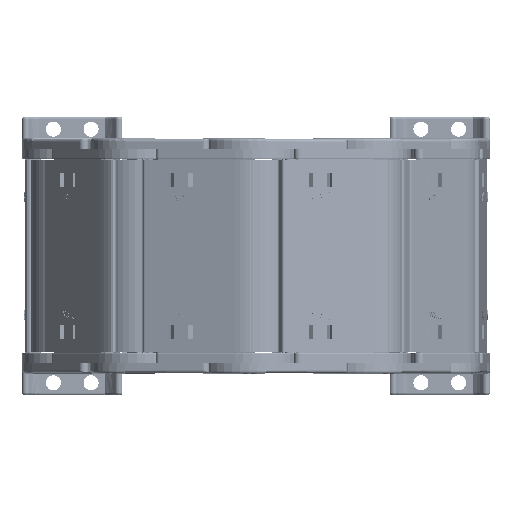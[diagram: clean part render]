
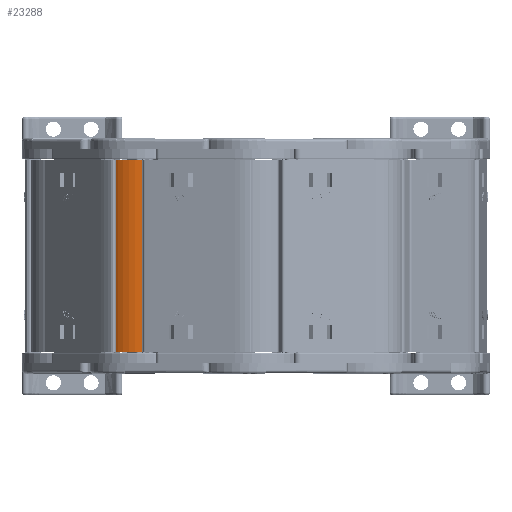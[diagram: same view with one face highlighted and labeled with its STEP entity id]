
A CAD part, left-side view. The second image highlights one B-rep face of the part: STEP entity #23288.
In plain terms, the highlighted cylindrical face has radius 17.3 mm (diameter 34.6 mm), a partial arc.
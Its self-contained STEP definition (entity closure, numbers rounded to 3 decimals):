
#868 = DIRECTION ( 'NONE',  ( 0., 0., 1. ) ) ;
#2129 = DIRECTION ( 'NONE',  ( 0., 0., 1. ) ) ;
#2860 = DIRECTION ( 'NONE',  ( 0., 0., -1. ) ) ;
#3500 = AXIS2_PLACEMENT_3D ( 'NONE', #23594, #868, #27463 ) ;
#8229 = VECTOR ( 'NONE', #2129, 1000. ) ;
#8332 = VERTEX_POINT ( 'NONE', #34950 ) ;
#8699 = DIRECTION ( 'NONE',  ( 0., 0., -1. ) ) ;
#10378 = EDGE_CURVE ( 'NONE', #8332, #31433, #33272, .T. ) ;
#11956 = CARTESIAN_POINT ( 'NONE',  ( 23.607, -0.029, 67.05 ) ) ;
#11969 = VECTOR ( 'NONE', #2860, 1000. ) ;
#12918 = ORIENTED_EDGE ( 'NONE', *, *, #10378, .T. ) ;
#13550 = FACE_OUTER_BOUND ( 'NONE', #31521, .T. ) ;
#14121 = ORIENTED_EDGE ( 'NONE', *, *, #22420, .T. ) ;
#15170 = EDGE_CURVE ( 'NONE', #31433, #23564, #32370, .T. ) ;
#15743 = DIRECTION ( 'NONE',  ( -1., 0., 0. ) ) ;
#20131 = CARTESIAN_POINT ( 'NONE',  ( 23.607, -0.029, 28.5 ) ) ;
#20881 = CARTESIAN_POINT ( 'NONE',  ( 17.932, 16.314, -9.05 ) ) ;
#21437 = CARTESIAN_POINT ( 'NONE',  ( 32.559, 14.775, 67.05 ) ) ;
#22420 = EDGE_CURVE ( 'NONE', #23564, #28015, #34668, .T. ) ;
#22510 = ORIENTED_EDGE ( 'NONE', *, *, #15170, .T. ) ;
#23288 = ADVANCED_FACE ( 'NONE', ( #13550 ), #43127, .T. ) ;
#23564 = VERTEX_POINT ( 'NONE', #34097 ) ;
#23594 = CARTESIAN_POINT ( 'NONE',  ( 23.607, -0.029, -9.05 ) ) ;
#23712 = EDGE_CURVE ( 'NONE', #28015, #8332, #38806, .T. ) ;
#25417 = AXIS2_PLACEMENT_3D ( 'NONE', #20131, #8699, #47266 ) ;
#27463 = DIRECTION ( 'NONE',  ( 1., 0., 0. ) ) ;
#28015 = VERTEX_POINT ( 'NONE', #20881 ) ;
#29444 = CARTESIAN_POINT ( 'NONE',  ( 32.559, 14.775, 28.5 ) ) ;
#31433 = VERTEX_POINT ( 'NONE', #21437 ) ;
#31521 = EDGE_LOOP ( 'NONE', ( #49252, #12918, #22510, #14121 ) ) ;
#32370 = LINE ( 'NONE', #29444, #11969 ) ;
#33272 = CIRCLE ( 'NONE', #45210, 17.3 ) ;
#34097 = CARTESIAN_POINT ( 'NONE',  ( 32.559, 14.775, -9.05 ) ) ;
#34668 = CIRCLE ( 'NONE', #3500, 17.3 ) ;
#34950 = CARTESIAN_POINT ( 'NONE',  ( 17.932, 16.314, 67.05 ) ) ;
#38806 = LINE ( 'NONE', #48064, #8229 ) ;
#38822 = DIRECTION ( 'NONE',  ( 0., 0., -1. ) ) ;
#43127 = CYLINDRICAL_SURFACE ( 'NONE', #25417, 17.3 ) ;
#45210 = AXIS2_PLACEMENT_3D ( 'NONE', #11956, #38822, #15743 ) ;
#47266 = DIRECTION ( 'NONE',  ( -1., 0., 0. ) ) ;
#48064 = CARTESIAN_POINT ( 'NONE',  ( 17.932, 16.314, 28.5 ) ) ;
#49252 = ORIENTED_EDGE ( 'NONE', *, *, #23712, .T. ) ;
